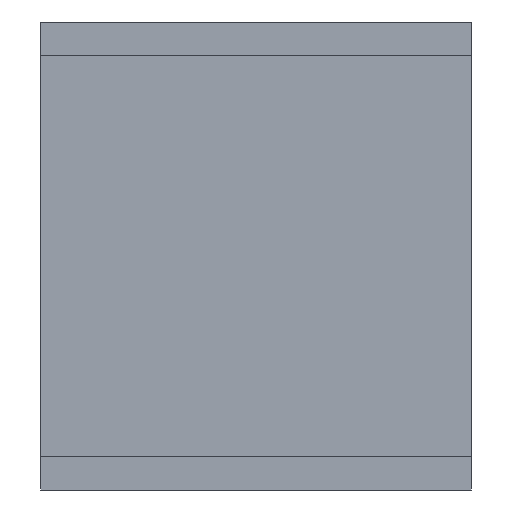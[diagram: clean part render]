
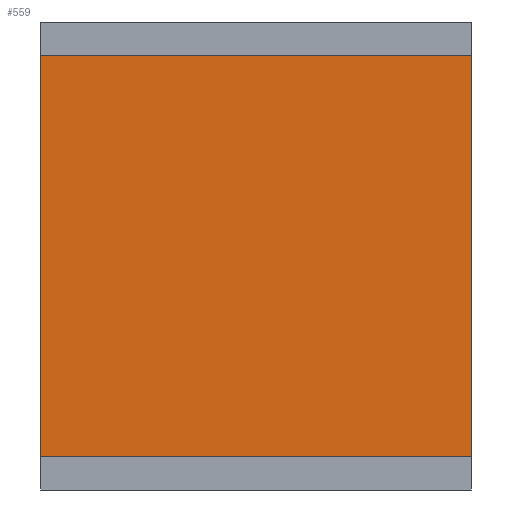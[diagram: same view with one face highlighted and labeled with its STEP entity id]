
A CAD part, front view. The second image highlights one B-rep face of the part: STEP entity #559.
In plain terms, the highlighted planar face has unit normal (0, -1, 0).
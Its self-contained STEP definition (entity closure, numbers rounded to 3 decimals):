
#21 = LINE ( 'NONE', #327, #261 ) ;
#37 = EDGE_CURVE ( 'NONE', #702, #724, #21, .T. ) ;
#41 = AXIS2_PLACEMENT_3D ( 'NONE', #320, #80, #85 ) ;
#53 = VECTOR ( 'NONE', #548, 1000. ) ;
#54 = LINE ( 'NONE', #674, #541 ) ;
#80 = DIRECTION ( 'NONE',  ( 0., 1., 0. ) ) ;
#85 = DIRECTION ( 'NONE',  ( 0., 0., 1. ) ) ;
#98 = CARTESIAN_POINT ( 'NONE',  ( 15., 14., 14. ) ) ;
#100 = CARTESIAN_POINT ( 'NONE',  ( 15., 14., -14. ) ) ;
#153 = FACE_OUTER_BOUND ( 'NONE', #475, .T. ) ;
#156 = EDGE_CURVE ( 'NONE', #724, #272, #608, .T. ) ;
#168 = EDGE_CURVE ( 'NONE', #609, #272, #54, .T. ) ;
#261 = VECTOR ( 'NONE', #595, 1000. ) ;
#272 = VERTEX_POINT ( 'NONE', #562 ) ;
#320 = CARTESIAN_POINT ( 'NONE',  ( 15., 14., 16.3 ) ) ;
#325 = LINE ( 'NONE', #98, #53 ) ;
#327 = CARTESIAN_POINT ( 'NONE',  ( 15., 14., 16.3 ) ) ;
#422 = ORIENTED_EDGE ( 'NONE', *, *, #694, .T. ) ;
#444 = VECTOR ( 'NONE', #495, 1000. ) ;
#464 = ORIENTED_EDGE ( 'NONE', *, *, #156, .F. ) ;
#474 = ORIENTED_EDGE ( 'NONE', *, *, #37, .F. ) ;
#475 = EDGE_LOOP ( 'NONE', ( #581, #464, #474, #422 ) ) ;
#487 = CARTESIAN_POINT ( 'NONE',  ( 15., 14., 14. ) ) ;
#495 = DIRECTION ( 'NONE',  ( -1., 0., 0. ) ) ;
#529 = PLANE ( 'NONE',  #41 ) ;
#541 = VECTOR ( 'NONE', #557, 1000. ) ;
#548 = DIRECTION ( 'NONE',  ( -1., 0., 0. ) ) ;
#557 = DIRECTION ( 'NONE',  ( 0., 0., -1. ) ) ;
#559 = ADVANCED_FACE ( 'NONE', ( #153 ), #529, .F. ) ;
#562 = CARTESIAN_POINT ( 'NONE',  ( -15., 14., -14. ) ) ;
#581 = ORIENTED_EDGE ( 'NONE', *, *, #168, .T. ) ;
#595 = DIRECTION ( 'NONE',  ( 0., 0., -1. ) ) ;
#608 = LINE ( 'NONE', #100, #444 ) ;
#609 = VERTEX_POINT ( 'NONE', #718 ) ;
#674 = CARTESIAN_POINT ( 'NONE',  ( -15., 14., 16.3 ) ) ;
#694 = EDGE_CURVE ( 'NONE', #702, #609, #325, .T. ) ;
#702 = VERTEX_POINT ( 'NONE', #487 ) ;
#718 = CARTESIAN_POINT ( 'NONE',  ( -15., 14., 14. ) ) ;
#724 = VERTEX_POINT ( 'NONE', #728 ) ;
#728 = CARTESIAN_POINT ( 'NONE',  ( 15., 14., -14. ) ) ;
